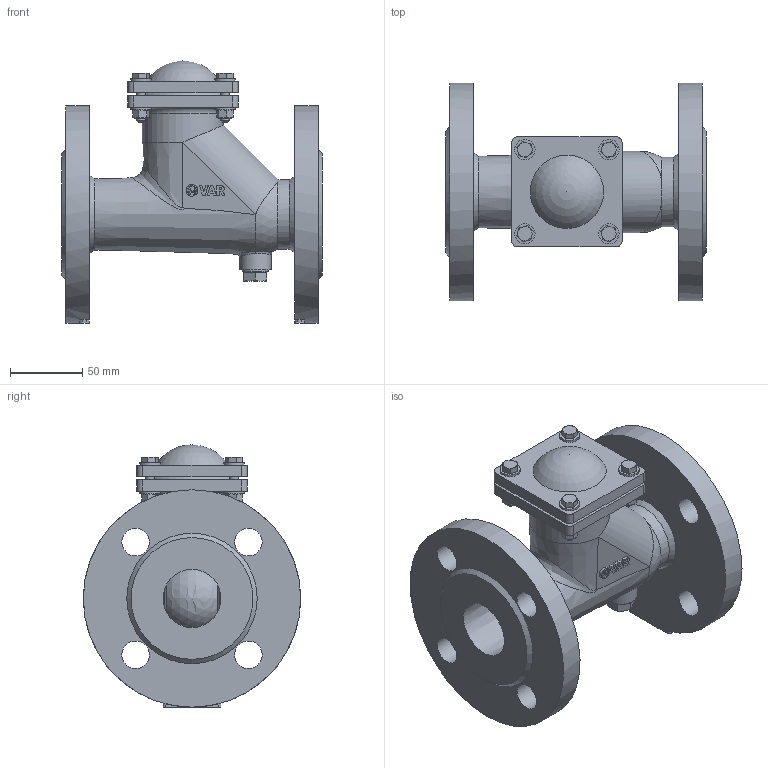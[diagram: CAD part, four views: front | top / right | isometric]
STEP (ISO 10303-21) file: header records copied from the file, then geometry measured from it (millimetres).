
FILE_DESCRIPTION(('STEP AP203'), '1');
FILE_NAME('Øàðîâîé îáðàòíûé êëàïàí VAG KRV', '', ('UNSPECIFIED'), ('UNSPECIFIED'), 'C3D Converter', 'C3D Toolkit', '');
FILE_SCHEMA(('CONFIG_CONTROL_DESIGN'));
Length unit declared in the file: millimetre
Assembly tree (22 placements, depth 2):
  (unnamed)
    (unnamed)
    (unnamed)
    (unnamed)
    (unnamed)
    (unnamed)
    (unnamed)  x8
    (unnamed)  x4
    (unnamed)  x4
    (unnamed)
Bounding box: 180 x 150 x 181 mm (x, y, z)
Volume: 795772.7 mm3; surface area: 204448.9 mm2
Topology: 23 solids, 24 shells, 528 faces, 1342 edges, 895 vertices
Faces by surface type: plane 260, extrusion 110, cylinder 75, cone 58, sphere 9, torus 8, bspline 8
Full cylindrical faces by diameter (mm): 4.917 x4, 5.4 x8, 6 x4, 7.993 x1, 8 x8, 10 x2, 10.5 x1, 14 x8, 14.63 x1, 18 x1, 19 x8, 22 x1, 40 x1, 48 x3, 56 x1, 150 x2
Entity records: 20393 total; most frequent: CARTESIAN_POINT 8363, ORIENTED_EDGE 1962, DIRECTION 1572, EDGE_CURVE 981, VERTEX_POINT 676, VECTOR 626, EDGE_LOOP 529, LINE 516
